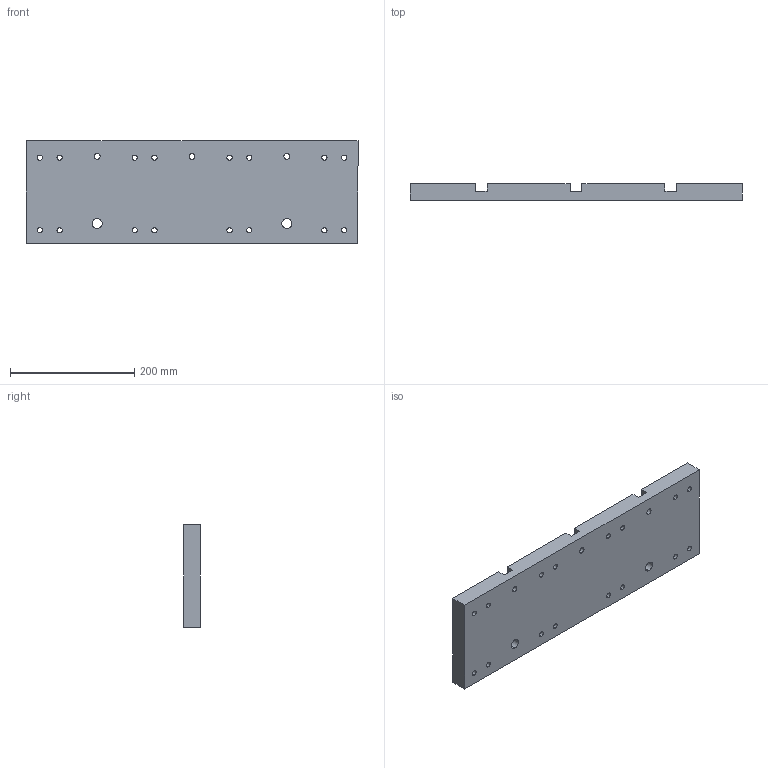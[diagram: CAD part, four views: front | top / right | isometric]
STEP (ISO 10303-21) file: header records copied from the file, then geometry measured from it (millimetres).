
FILE_DESCRIPTION (( 'STEP AP203' ), '1' );
FILE_NAME ('269-18-113.STEP', '2020-03-02T21:35:24', ( '' ), ( '' ), 'SwSTEP 2.0', 'SolidWorks 2017', '' );
FILE_SCHEMA (( 'CONFIG_CONTROL_DESIGN' ));
Length unit declared in the file: inch
Products named in the file (1): 269-18-113
Bounding box: 533.4 x 26.92 x 165.1 mm (x, y, z)
Volume: 2210463.2 mm3; surface area: 237726.5 mm2
Topology: 1 solids, 1 shells, 108 faces, 270 edges, 180 vertices
Faces by surface type: cylinder 74, plane 34
Entity records: 3465 total; most frequent: DIRECTION 636, CARTESIAN_POINT 559, ORIENTED_EDGE 540, EDGE_CURVE 270, AXIS2_PLACEMENT_3D 257, VERTEX_POINT 180, EDGE_LOOP 166, CIRCLE 148
